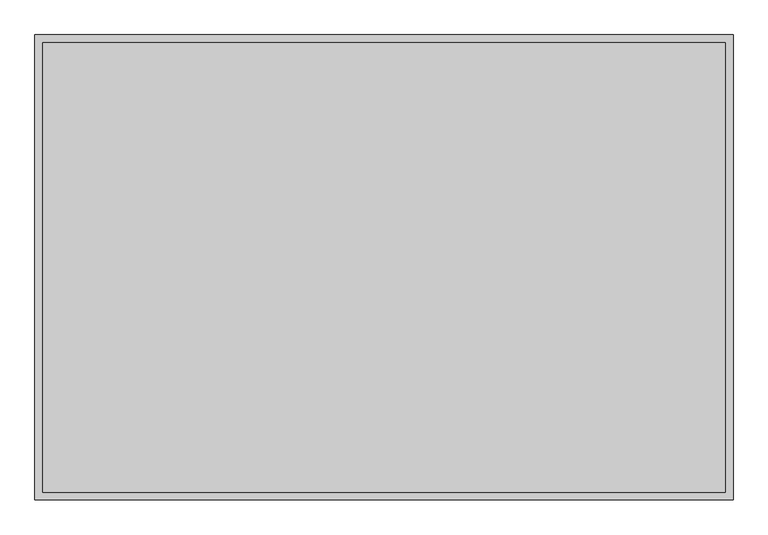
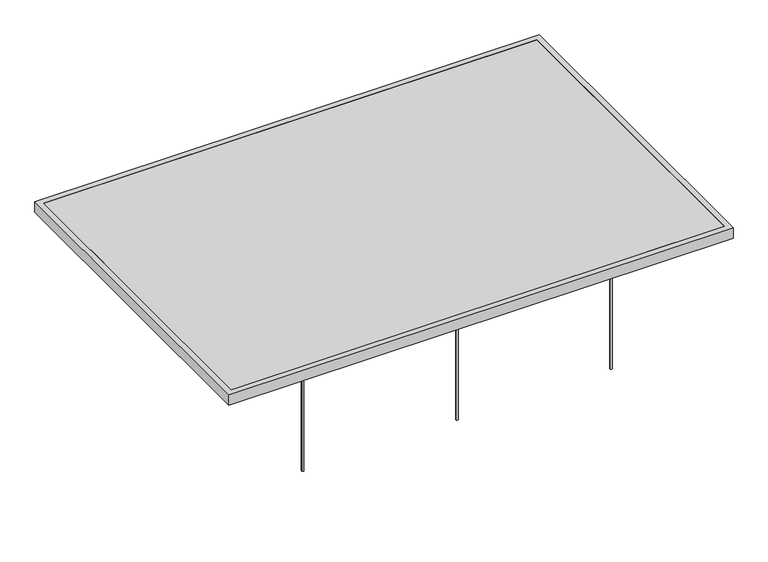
"""IFC4 building model written with IfcOpenShell, lengths in millimetres: proxy geometry, OWA Selecta Metal : Selecta Metal plus."""

import ifcopenshell
import ifcopenshell.guid

model = None  # the IFC model being written
_history = None  # IfcOwnerHistory: only IFC2X3 demands one
_inside = {}  # id of a spatial element -> (the spatial element, [elements in it])
_under = {}  # id of a project, library or spatial element -> (it, [spatial elements below it])
_declared = {}  # id of a project -> (the project, [libraries it declares])
_typed = {}  # id of a type object -> (the type object, [elements of that type])
_made_of = {}  # id of a material, layer set ... -> (it, [elements and type objects made of it])


def new_model(schema):
    """Start an empty IFC model of exactly this schema.

    Asked for "IFC4X3", IfcOpenShell would pick the latest addendum, in which some entities
    have other attributes; the version numbers below select the first issue.
    IFC2X3 requires an IfcOwnerHistory on every rooted entity: one is made here for all.
    """
    global model, _history
    if schema == "IFC4X3":
        model = ifcopenshell.file(schema_version=(4, 3, 0, 0))
    else:
        model = ifcopenshell.file(schema=schema)
    _inside.clear()
    _under.clear()
    _declared.clear()
    _typed.clear()
    _made_of.clear()
    _history = None
    if model.schema == "IFC2X3":
        org = make("IfcOrganization", Name="unknown")
        user = make(
            "IfcPersonAndOrganization",
            ThePerson=make("IfcPerson", FamilyName="unknown"),
            TheOrganization=org,
        )
        app = make(
            "IfcApplication",
            ApplicationDeveloper=org,
            Version="unknown",
            ApplicationFullName="unknown",
            ApplicationIdentifier="unknown",
        )
        _history = make(
            "IfcOwnerHistory",
            OwningUser=user,
            OwningApplication=app,
            ChangeAction="ADDED",
            CreationDate=0,
        )
    return model


def make(cls, **values):
    """One entity of the class cls with the attributes given. An attribute that is None is left unset."""
    return model.create_entity(
        cls, **{name: value for name, value in values.items() if value is not None}
    )


def rooted(cls, **values):
    """An entity with a GlobalId (a new one), such as an element, a storey or a relation."""
    return make(cls, GlobalId=ifcopenshell.guid.new(), OwnerHistory=_history, **values)


def si_unit(unit_type, name, prefix=None):
    """IfcSIUnit, for example si_unit("LENGTHUNIT", "METRE", prefix="MILLI")."""
    return make("IfcSIUnit", UnitType=unit_type, Prefix=prefix, Name=name)


def assignment(units):
    """IfcUnitAssignment: the units of a project."""
    return None if units is None else make("IfcUnitAssignment", Units=units)


def point(xyz):
    """IfcCartesianPoint."""
    return None if xyz is None else make("IfcCartesianPoint", Coordinates=xyz)


def direction(xyz):
    """IfcDirection."""
    return None if xyz is None else make("IfcDirection", DirectionRatios=xyz)


def frame(location, z_axis=None, x_axis=None):
    """IfcAxis2Placement3D, a coordinate frame: its origin and axes. An axis left out is left unset."""
    return make(
        "IfcAxis2Placement3D",
        Location=point(location),
        Axis=direction(z_axis),
        RefDirection=direction(x_axis),
    )


def frame_2d(location, x_axis=None):
    """IfcAxis2Placement2D, a coordinate frame in the plane: its origin and x axis."""
    return make(
        "IfcAxis2Placement2D", Location=point(location), RefDirection=direction(x_axis)
    )


def origin():
    """The frame at (0, 0, 0) with its axes left unset."""
    return frame((0.0, 0.0, 0.0))


def origin_with_axes():
    """The frame at (0, 0, 0) with the z axis (0, 0, 1) and the x axis (1, 0, 0) written out."""
    return frame((0.0, 0.0, 0.0), z_axis=(0.0, 0.0, 1.0), x_axis=(1.0, 0.0, 0.0))


def place(relative_to, where):
    """IfcLocalPlacement: puts the frame where relative to a parent placement (None: the world)."""
    return make(
        "IfcLocalPlacement", PlacementRelTo=relative_to, RelativePlacement=where
    )


def context(
    kind, dimensions, precision=None, world=None, true_north=None, identifier=None
):
    """IfcGeometricRepresentationContext, for example the 3D "Model" context."""
    return make(
        "IfcGeometricRepresentationContext",
        ContextIdentifier=identifier,
        ContextType=kind,
        CoordinateSpaceDimension=dimensions,
        Precision=precision,
        WorldCoordinateSystem=world,
        TrueNorth=true_north,
    )


def project(units=None, contexts=None):
    """IfcProject with its units and contexts."""
    return rooted(
        "IfcProject",
        Name="project",
        RepresentationContexts=contexts,
        UnitsInContext=assignment(units),
    )


def spatial(cls, under=None, at=None, **own):
    """A site, building, storey or space (cls), placed at a placement, below another one or the project."""
    s = rooted(cls, ObjectPlacement=at, **own)
    if under is not None:
        _under.setdefault(under.id(), (under, []))[1].append(s)
    return s


def polyline(points):
    """IfcPolyline through the points."""
    return make("IfcPolyline", Points=[point(p) for p in points])


def circle_curve(where, radius):
    """IfcCircle in the frame where."""
    return make("IfcCircle", Position=where, Radius=radius)


def trimmed(basis, trim1, trim2, sense, master):
    """IfcTrimmedCurve: the piece of a basis curve between two trims."""
    return make(
        "IfcTrimmedCurve",
        BasisCurve=basis,
        Trim1=trim1,
        Trim2=trim2,
        SenseAgreement=sense,
        MasterRepresentation=master,
    )


def segment(curve, same_sense, transition):
    """IfcCompositeCurveSegment."""
    return make(
        "IfcCompositeCurveSegment",
        Transition=transition,
        SameSense=same_sense,
        ParentCurve=curve,
    )


def composite_curve(segments, self_intersect=None):
    """IfcCompositeCurve: segments joined end to end."""
    return make("IfcCompositeCurve", Segments=segments, SelfIntersect=self_intersect)


def outline(outer, holes=None, kind="AREA"):
    """IfcArbitraryClosedProfileDef: a profile drawn as a closed curve; with holes, ...WithVoids."""
    if holes is None:
        return make("IfcArbitraryClosedProfileDef", ProfileType=kind, OuterCurve=outer)
    return make(
        "IfcArbitraryProfileDefWithVoids",
        ProfileType=kind,
        OuterCurve=outer,
        InnerCurves=holes,
    )


def extrude(swept, where, along, depth):
    """IfcExtrudedAreaSolid: the profile swept, set in the frame where, extruded along a direction by depth."""
    return make(
        "IfcExtrudedAreaSolid",
        SweptArea=swept,
        Position=where,
        ExtrudedDirection=direction(along),
        Depth=depth,
    )


def shape(context_of_items, identifier, shape_type, items):
    """IfcShapeRepresentation: the items that make up one representation, for example the "Body"."""
    return make(
        "IfcShapeRepresentation",
        ContextOfItems=context_of_items,
        RepresentationIdentifier=identifier,
        RepresentationType=shape_type,
        Items=items,
    )


def source(mapping_origin, context_of_items, identifier, shape_type, items):
    """IfcRepresentationMap: a shape defined once, which mapped items show again and again."""
    return make(
        "IfcRepresentationMap",
        MappingOrigin=mapping_origin,
        MappedRepresentation=shape(context_of_items, identifier, shape_type, items),
    )


def transform(
    local_origin,
    x_axis=None,
    y_axis=None,
    z_axis=None,
    scale=None,
    scale2=None,
    scale3=None,
    uniform=True,
):
    """IfcCartesianTransformationOperator3D, or its non-uniform kind. x_axis, y_axis, z_axis: its Axis1, 2, 3."""
    if uniform:
        return make(
            "IfcCartesianTransformationOperator3D",
            Axis1=direction(x_axis),
            Axis2=direction(y_axis),
            LocalOrigin=point(local_origin),
            Scale=scale,
            Axis3=direction(z_axis),
        )
    return make(
        "IfcCartesianTransformationOperator3DnonUniform",
        Axis1=direction(x_axis),
        Axis2=direction(y_axis),
        LocalOrigin=point(local_origin),
        Scale=scale,
        Axis3=direction(z_axis),
        Scale2=scale2,
        Scale3=scale3,
    )


def mapped(mapping_source, mapping_target):
    """IfcMappedItem: shows the shape of a source again, moved by a transform."""
    return make(
        "IfcMappedItem", MappingSource=mapping_source, MappingTarget=mapping_target
    )


def made_of(thing, what):
    """Note that an element or type object is made of a material, layer set ...; save() writes the relation."""
    if what is not None:
        _made_of.setdefault(what.id(), (what, []))[1].append(thing)
    return thing


def element(
    cls,
    number,
    at=None,
    inside=None,
    cuts=None,
    type_object=None,
    material=None,
    context=None,
    identifier="Body",
    shape_type=None,
    held_by="IfcProductDefinitionShape",
    body=None,
    shapes=None,
    **own,
):
    """One element of the class cls, such as IfcWall. Its Tag is "e" and its number.

    at: its placement. inside: the storey or other place that contains it. cuts: it is an
    opening in that element (IfcRelVoidsElement). A single representation is given by context,
    identifier, shape_type and body (its items); several are given by shapes. held_by: the class
    of the entity that holds the representations. save() writes the other relations.
    """
    e = rooted(cls, Tag="e%d" % number, ObjectPlacement=at, **own)
    if body is not None:
        shapes = [shape(context, identifier, shape_type, body)]
    if shapes is not None:
        e.Representation = make(held_by, Representations=shapes)
    if inside is not None:
        _inside.setdefault(inside.id(), (inside, []))[1].append(e)
    if cuts is not None:
        rooted(
            "IfcRelVoidsElement", RelatingBuildingElement=cuts, RelatedOpeningElement=e
        )
    if type_object is not None:
        _typed.setdefault(type_object.id(), (type_object, []))[1].append(e)
    return made_of(e, material)


def aggregate(whole, parts):
    """IfcRelAggregates: a whole, such as a stair, and the parts it consists of."""
    return rooted("IfcRelAggregates", RelatingObject=whole, RelatedObjects=parts)


def save(model, path):
    """Write the relations noted so far, then the file.

    IfcRelAggregates (storeys below a building ...), IfcRelContainedInSpatialStructure (elements
    in a storey), IfcRelDefinesByType, IfcRelAssociatesMaterial and IfcRelDeclares: one each for
    every whole, place, type object, material and project.
    """
    for whole, parts in _under.values():
        aggregate(whole, parts)
    for where, things in _inside.values():
        rooted(
            "IfcRelContainedInSpatialStructure",
            RelatedElements=things,
            RelatingStructure=where,
        )
    for kind, things in _typed.values():
        rooted("IfcRelDefinesByType", RelatedObjects=things, RelatingType=kind)
    for what, things in _made_of.values():
        rooted("IfcRelAssociatesMaterial", RelatedObjects=things, RelatingMaterial=what)
    for by, libraries in _declared.values():
        rooted("IfcRelDeclares", RelatingContext=by, RelatedDefinitions=libraries)
    model.write(path)


def specialty_equipment_7388ff7b(model_context):
    return source(origin(), model_context, "Body", "SweptSolid", [
        extrude(outline(polyline([(-439.2735027, 450.0), (-436.3867513, 455.0), (-430.6132487, 455.0), (-427.7264973, 450.0), (-430.6132487, 445.0), (-436.3867513, 445.0), (-439.2735027, 450.0)]), holes=[composite_curve([segment(trimmed(circle_curve(frame_2d((-433.5, 450.0)), 3.85), [point((-437.35, 450.0))], [point((-429.65, 450.0))], True, "CARTESIAN"), True, "CONTINUOUS"), segment(trimmed(circle_curve(frame_2d((-433.5, 450.0)), 3.85), [point((-429.65, 450.0))], [point((-437.35, 450.0))], True, "CARTESIAN"), True, "CONTINUOUS")], self_intersect=False)]), frame((0.0, 0.0, 455.0), z_axis=(0.0, 0.0, 1.0), x_axis=(1.0, 0.0, 0.0)), (0.0, 0.0, 1.0), 5.0),
        extrude(outline(composite_curve([segment(trimmed(circle_curve(frame_2d((-433.5, 450.0)), 3.85), [point((-437.35, 450.0))], [point((-429.65, 450.0))], False, "CARTESIAN"), True, "CONTINUOUS"), segment(trimmed(circle_curve(frame_2d((-433.5, 450.0)), 3.85), [point((-429.65, 450.0))], [point((-437.35, 450.0))], False, "CARTESIAN"), True, "CONTINUOUS")], self_intersect=False)), origin_with_axes(), (0.0, 0.0, 1.0), 460.0),
        extrude(outline(polyline([(-439.2735027, -450.0), (-436.3867513, -445.0), (-430.6132487, -445.0), (-427.7264973, -450.0), (-430.6132487, -455.0), (-436.3867513, -455.0), (-439.2735027, -450.0)]), holes=[composite_curve([segment(trimmed(circle_curve(frame_2d((-433.5, -450.0)), 3.85), [point((-437.35, -450.0))], [point((-429.65, -450.0))], True, "CARTESIAN"), True, "CONTINUOUS"), segment(trimmed(circle_curve(frame_2d((-433.5, -450.0)), 3.85), [point((-429.65, -450.0))], [point((-437.35, -450.0))], True, "CARTESIAN"), True, "CONTINUOUS")], self_intersect=False)]), frame((0.0, 0.0, 455.0), z_axis=(0.0, 0.0, 1.0), x_axis=(1.0, 0.0, 0.0)), (0.0, 0.0, 1.0), 5.0),
        extrude(outline(composite_curve([segment(trimmed(circle_curve(frame_2d((-433.5, -450.0)), 3.85), [point((-437.35, -450.0))], [point((-429.65, -450.0))], False, "CARTESIAN"), True, "CONTINUOUS"), segment(trimmed(circle_curve(frame_2d((-433.5, -450.0)), 3.85), [point((-429.65, -450.0))], [point((-437.35, -450.0))], False, "CARTESIAN"), True, "CONTINUOUS")], self_intersect=False)), origin_with_axes(), (0.0, 0.0, 1.0), 460.0),
        extrude(outline(polyline([(-989.2735027, 450.0), (-986.3867513, 455.0), (-980.6132487, 455.0), (-977.7264973, 450.0), (-980.6132487, 445.0), (-986.3867513, 445.0), (-989.2735027, 450.0)]), holes=[composite_curve([segment(trimmed(circle_curve(frame_2d((-983.5, 450.0)), 3.85), [point((-987.35, 450.0))], [point((-979.65, 450.0))], True, "CARTESIAN"), True, "CONTINUOUS"), segment(trimmed(circle_curve(frame_2d((-983.5, 450.0)), 3.85), [point((-979.65, 450.0))], [point((-987.35, 450.0))], True, "CARTESIAN"), True, "CONTINUOUS")], self_intersect=False)]), frame((0.0, 0.0, 455.0), z_axis=(0.0, 0.0, 1.0), x_axis=(1.0, 0.0, 0.0)), (0.0, 0.0, 1.0), 5.0),
        extrude(outline(composite_curve([segment(trimmed(circle_curve(frame_2d((-983.5, 450.0)), 3.85), [point((-987.35, 450.0))], [point((-979.65, 450.0))], False, "CARTESIAN"), True, "CONTINUOUS"), segment(trimmed(circle_curve(frame_2d((-983.5, 450.0)), 3.85), [point((-979.65, 450.0))], [point((-987.35, 450.0))], False, "CARTESIAN"), True, "CONTINUOUS")], self_intersect=False)), origin_with_axes(), (0.0, 0.0, 1.0), 460.0),
        extrude(outline(polyline([(122.2735027, 450.0), (119.3867513, 445.0), (113.6132487, 445.0), (110.7264973, 450.0), (113.6132487, 455.0), (119.3867513, 455.0), (122.2735027, 450.0)]), holes=[composite_curve([segment(trimmed(circle_curve(frame_2d((116.5, 450.0)), 3.85), [point((120.35, 450.0))], [point((112.65, 450.0))], True, "CARTESIAN"), True, "CONTINUOUS"), segment(trimmed(circle_curve(frame_2d((116.5, 450.0)), 3.85), [point((112.65, 450.0))], [point((120.35, 450.0))], True, "CARTESIAN"), True, "CONTINUOUS")], self_intersect=False)]), frame((0.0, 0.0, 455.0), z_axis=(0.0, 0.0, 1.0), x_axis=(1.0, 0.0, 0.0)), (0.0, 0.0, 1.0), 5.0),
        extrude(outline(composite_curve([segment(trimmed(circle_curve(frame_2d((116.5, 450.0)), 3.85), [point((120.35, 450.0))], [point((112.65, 450.0))], False, "CARTESIAN"), True, "CONTINUOUS"), segment(trimmed(circle_curve(frame_2d((116.5, 450.0)), 3.85), [point((112.65, 450.0))], [point((120.35, 450.0))], False, "CARTESIAN"), True, "CONTINUOUS")], self_intersect=False)), origin_with_axes(), (0.0, 0.0, 1.0), 460.0),
        extrude(outline(polyline([(122.2735027, -450.0), (119.3867513, -455.0), (113.6132487, -455.0), (110.7264973, -450.0), (113.6132487, -445.0), (119.3867513, -445.0), (122.2735027, -450.0)]), holes=[composite_curve([segment(trimmed(circle_curve(frame_2d((116.5, -450.0)), 3.85), [point((120.35, -450.0))], [point((112.65, -450.0))], True, "CARTESIAN"), True, "CONTINUOUS"), segment(trimmed(circle_curve(frame_2d((116.5, -450.0)), 3.85), [point((112.65, -450.0))], [point((120.35, -450.0))], True, "CARTESIAN"), True, "CONTINUOUS")], self_intersect=False)]), frame((0.0, 0.0, 455.0), z_axis=(0.0, 0.0, 1.0), x_axis=(1.0, 0.0, 0.0)), (0.0, 0.0, 1.0), 5.0),
        extrude(outline(composite_curve([segment(trimmed(circle_curve(frame_2d((116.5, -450.0)), 3.85), [point((120.35, -450.0))], [point((112.65, -450.0))], False, "CARTESIAN"), True, "CONTINUOUS"), segment(trimmed(circle_curve(frame_2d((116.5, -450.0)), 3.85), [point((112.65, -450.0))], [point((120.35, -450.0))], False, "CARTESIAN"), True, "CONTINUOUS")], self_intersect=False)), origin_with_axes(), (0.0, 0.0, 1.0), 460.0),
        extrude(outline(polyline([(-989.2735027, -450.0), (-986.3867513, -445.0), (-980.6132487, -445.0), (-977.7264973, -450.0), (-980.6132487, -455.0), (-986.3867513, -455.0), (-989.2735027, -450.0)]), holes=[composite_curve([segment(trimmed(circle_curve(frame_2d((-983.5, -450.0)), 3.85), [point((-987.35, -450.0))], [point((-979.65, -450.0))], True, "CARTESIAN"), True, "CONTINUOUS"), segment(trimmed(circle_curve(frame_2d((-983.5, -450.0)), 3.85), [point((-979.65, -450.0))], [point((-987.35, -450.0))], True, "CARTESIAN"), True, "CONTINUOUS")], self_intersect=False)]), frame((0.0, 0.0, 455.0), z_axis=(0.0, 0.0, 1.0), x_axis=(1.0, 0.0, 0.0)), (0.0, 0.0, 1.0), 5.0),
        extrude(outline(composite_curve([segment(trimmed(circle_curve(frame_2d((-983.5, -450.0)), 3.85), [point((-987.35, -450.0))], [point((-979.65, -450.0))], False, "CARTESIAN"), True, "CONTINUOUS"), segment(trimmed(circle_curve(frame_2d((-983.5, -450.0)), 3.85), [point((-979.65, -450.0))], [point((-987.35, -450.0))], False, "CARTESIAN"), True, "CONTINUOUS")], self_intersect=False)), origin_with_axes(), (0.0, 0.0, 1.0), 460.0),
        extrude(outline(polyline([(-413.5, 580.0), (-413.5, -580.0), (-453.5, -580.0), (-453.5, 580.0), (-413.5, 580.0)])), frame((0.0, 0.0, 460.0), z_axis=(0.0, 0.0, 1.0), x_axis=(1.0, 0.0, 0.0)), (0.0, 0.0, 1.0), 20.0),
        extrude(outline(polyline([(-963.5, 580.0), (-963.5, -580.0), (-1003.5, -580.0), (-1003.5, 580.0), (-963.5, 580.0)])), frame((0.0, 0.0, 460.0), z_axis=(0.0, 0.0, 1.0), x_axis=(1.0, 0.0, 0.0)), (0.0, 0.0, 1.0), 20.0),
        extrude(outline(polyline([(96.5, 580.0), (136.5, 580.0), (136.5, -580.0), (96.5, -580.0), (96.5, 580.0)])), frame((0.0, 0.0, 460.0), z_axis=(0.0, 0.0, 1.0), x_axis=(1.0, 0.0, 0.0)), (0.0, 0.0, 1.0), 20.0),
        extrude(outline(polyline([(466.5, 600.0), (466.5, -600.0), (-1333.5, -600.0), (-1333.5, 600.0), (466.5, 600.0)]), holes=[polyline([(-1313.5, -580.0), (446.5, -580.0), (446.5, 580.0), (-1313.5, 580.0), (-1313.5, -580.0)])]), frame((0.0, 0.0, 460.0), z_axis=(0.0, 0.0, 1.0), x_axis=(1.0, 0.0, 0.0)), (0.0, 0.0, 1.0), 40.0),
        extrude(outline(polyline([(446.5, 580.0), (446.5, -580.0), (-1313.5, -580.0), (-1313.5, 580.0), (446.5, 580.0)])), frame((0.0, 0.0, 490.0), z_axis=(0.0, 0.0, 1.0), x_axis=(1.0, 0.0, 0.0)), (0.0, 0.0, 1.0), 10.0),
    ])


if __name__ == "__main__":
    model = new_model("IFC4")
    model_context = context("Model", 3, world=origin())
    ifc_project = project(units=[si_unit("LENGTHUNIT", "METRE", prefix="MILLI")], contexts=[model_context])
    site = spatial("IfcSite", under=ifc_project)
    building = spatial("IfcBuilding", under=site)
    placement = place(None, origin())
    specialty_equipment_shape = specialty_equipment_7388ff7b(model_context)
    element("IfcBuildingElementProxy", 1, Name="OWA Selecta Metal : Selecta Metal plus", ObjectType="OWA Selecta Metal : Selecta Metal plus", at=placement, inside=building, context=model_context, shape_type="MappedRepresentation", body=[
        mapped(specialty_equipment_shape, transform((0.0, 0.0, 0.0), x_axis=(1.0, 0.0, 0.0), y_axis=(0.0, 1.0, 0.0), z_axis=(0.0, 0.0, 1.0))),
    ])
    save(model, "model.ifc")
